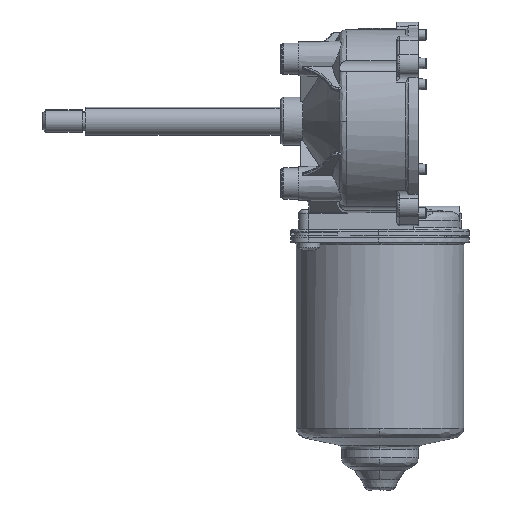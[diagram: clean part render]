
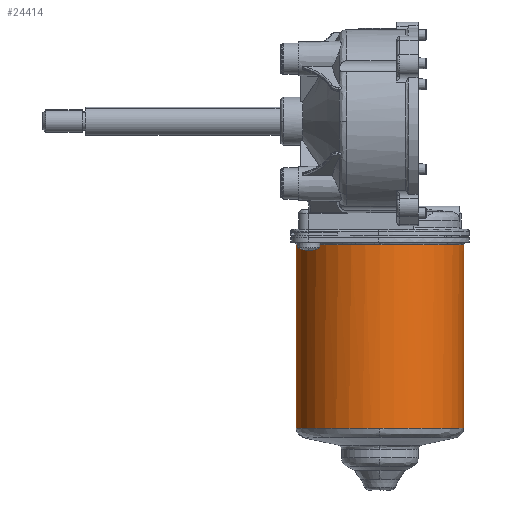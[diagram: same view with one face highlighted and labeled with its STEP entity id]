
A CAD part, front view. The second image highlights one B-rep face of the part: STEP entity #24414.
In plain terms, the highlighted cylindrical face has radius 29.599 mm (diameter 59.199 mm), a partial arc.
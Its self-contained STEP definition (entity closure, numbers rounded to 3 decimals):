
#2140 = VERTEX_POINT ( 'NONE', #4070 ) ;
#2142 = EDGE_CURVE ( 'NONE', #2140, #25295, #4072, .T. ) ;
#2144 = VERTEX_POINT ( 'NONE', #4065 ) ;
#2193 = EDGE_CURVE ( 'NONE', #25390, #2144, #4317, .T. ) ;
#4065 = CARTESIAN_POINT ( 'NONE',  ( 54.599, 31.001, -43.7 ) ) ;
#4066 = DIRECTION ( 'NONE',  ( 0., 0., 1. ) ) ;
#4067 = VECTOR ( 'NONE', #4066, 1000. ) ;
#4068 = CARTESIAN_POINT ( 'NONE',  ( -4.6, 31.001, -108.318 ) ) ;
#4070 = CARTESIAN_POINT ( 'NONE',  ( -4.6, 31.001, -108.318 ) ) ;
#4072 = LINE ( 'NONE', #4068, #4067 ) ;
#4314 = DIRECTION ( 'NONE',  ( 0., 0., 1. ) ) ;
#4315 = VECTOR ( 'NONE', #4314, 1000. ) ;
#4316 = CARTESIAN_POINT ( 'NONE',  ( 54.599, 31.001, -108.318 ) ) ;
#4317 = LINE ( 'NONE', #4316, #4315 ) ;
#8127 = B_SPLINE_CURVE_WITH_KNOTS ( 'NONE', 3,
 ( #8166, #8165, #8164, #8163, #8162, #8161, #8160, #8159, #8158, #8157, #8155, #8154, #8152, #8151, #8150, #8149, #8148, #8147 ),
 .UNSPECIFIED., .F., .F.,
 ( 4, 2, 2, 2, 2, 2, 2, 2, 4 ),
 ( 0.5, 0.563, 0.625, 0.688, 0.75, 0.813, 0.875, 0.938, 1. ),
 .UNSPECIFIED. ) ;
#8147 = CARTESIAN_POINT ( 'NONE',  ( 24.999, 1.401, -108.318 ) ) ;
#8148 = CARTESIAN_POINT ( 'NONE',  ( 23.062, 1.401, -108.318 ) ) ;
#8149 = CARTESIAN_POINT ( 'NONE',  ( 21.125, 1.592, -108.318 ) ) ;
#8150 = CARTESIAN_POINT ( 'NONE',  ( 17.325, 2.348, -108.318 ) ) ;
#8151 = CARTESIAN_POINT ( 'NONE',  ( 15.462, 2.913, -108.318 ) ) ;
#8152 = CARTESIAN_POINT ( 'NONE',  ( 11.882, 4.396, -108.318 ) ) ;
#8154 = CARTESIAN_POINT ( 'NONE',  ( 10.165, 5.313, -108.318 ) ) ;
#8155 = CARTESIAN_POINT ( 'NONE',  ( 6.944, 7.466, -108.318 ) ) ;
#8157 = CARTESIAN_POINT ( 'NONE',  ( 5.439, 8.701, -108.318 ) ) ;
#8158 = CARTESIAN_POINT ( 'NONE',  ( 2.699, 11.44, -108.318 ) ) ;
#8159 = CARTESIAN_POINT ( 'NONE',  ( 1.464, 12.945, -108.318 ) ) ;
#8160 = CARTESIAN_POINT ( 'NONE',  ( -0.688, 16.167, -108.318 ) ) ;
#8161 = CARTESIAN_POINT ( 'NONE',  ( -1.606, 17.884, -108.318 ) ) ;
#8162 = CARTESIAN_POINT ( 'NONE',  ( -3.089, 21.463, -108.318 ) ) ;
#8163 = CARTESIAN_POINT ( 'NONE',  ( -3.654, 23.326, -108.318 ) ) ;
#8164 = CARTESIAN_POINT ( 'NONE',  ( -4.41, 27.126, -108.318 ) ) ;
#8165 = CARTESIAN_POINT ( 'NONE',  ( -4.6, 29.063, -108.318 ) ) ;
#8166 = CARTESIAN_POINT ( 'NONE',  ( -4.6, 31.001, -108.318 ) ) ;
#8396 = DIRECTION ( 'NONE',  ( 0., -1., 0. ) ) ;
#8398 = DIRECTION ( 'NONE',  ( 0., 0., -1. ) ) ;
#8399 = CARTESIAN_POINT ( 'NONE',  ( 24.999, 31.001, -43.7 ) ) ;
#8669 = AXIS2_PLACEMENT_3D ( 'NONE', #8399, #8398, #8396 ) ;
#8670 = CIRCLE ( 'NONE', #8669, 29.599 ) ;
#8928 = DIRECTION ( 'NONE',  ( 1., 0., 0. ) ) ;
#8929 = DIRECTION ( 'NONE',  ( 0., 0., 1. ) ) ;
#8930 = AXIS2_PLACEMENT_3D ( 'NONE', #8931, #8929, #8928 ) ;
#8931 = CARTESIAN_POINT ( 'NONE',  ( 24.999, 31.001, -108.318 ) ) ;
#8932 = CYLINDRICAL_SURFACE ( 'NONE', #8930, 29.599 ) ;
#8933 = FACE_OUTER_BOUND ( 'NONE', #24415, .T. ) ;
#11589 = CARTESIAN_POINT ( 'NONE',  ( -4.6, 31.001, -43.7 ) ) ;
#11616 = DIRECTION ( 'NONE',  ( 0., -1., 0. ) ) ;
#11617 = DIRECTION ( 'NONE',  ( 0., 0., -1. ) ) ;
#11618 = CARTESIAN_POINT ( 'NONE',  ( 24.999, 31.001, -43.7 ) ) ;
#11619 = AXIS2_PLACEMENT_3D ( 'NONE', #11618, #11617, #11616 ) ;
#11620 = CIRCLE ( 'NONE', #11619, 29.599 ) ;
#11981 = CARTESIAN_POINT ( 'NONE',  ( 24.999, 1.401, -43.7 ) ) ;
#12040 = CARTESIAN_POINT ( 'NONE',  ( 54.599, 31.001, -108.318 ) ) ;
#12068 = CARTESIAN_POINT ( 'NONE',  ( 54.599, 31.001, -108.318 ) ) ;
#12069 = CARTESIAN_POINT ( 'NONE',  ( 54.599, 29.063, -108.318 ) ) ;
#12070 = CARTESIAN_POINT ( 'NONE',  ( 54.408, 27.126, -108.318 ) ) ;
#12071 = CARTESIAN_POINT ( 'NONE',  ( 53.652, 23.326, -108.318 ) ) ;
#12072 = CARTESIAN_POINT ( 'NONE',  ( 53.087, 21.463, -108.318 ) ) ;
#12073 = CARTESIAN_POINT ( 'NONE',  ( 51.604, 17.884, -108.318 ) ) ;
#12074 = CARTESIAN_POINT ( 'NONE',  ( 50.687, 16.167, -108.318 ) ) ;
#12075 = CARTESIAN_POINT ( 'NONE',  ( 48.534, 12.945, -108.318 ) ) ;
#12076 = CARTESIAN_POINT ( 'NONE',  ( 47.299, 11.44, -108.318 ) ) ;
#12077 = CARTESIAN_POINT ( 'NONE',  ( 44.559, 8.701, -108.318 ) ) ;
#12078 = CARTESIAN_POINT ( 'NONE',  ( 43.055, 7.466, -108.318 ) ) ;
#12079 = CARTESIAN_POINT ( 'NONE',  ( 39.833, 5.313, -108.318 ) ) ;
#12080 = CARTESIAN_POINT ( 'NONE',  ( 38.116, 4.396, -108.318 ) ) ;
#12081 = CARTESIAN_POINT ( 'NONE',  ( 34.537, 2.913, -108.318 ) ) ;
#12082 = CARTESIAN_POINT ( 'NONE',  ( 32.674, 2.348, -108.318 ) ) ;
#12083 = CARTESIAN_POINT ( 'NONE',  ( 28.874, 1.592, -108.318 ) ) ;
#12084 = CARTESIAN_POINT ( 'NONE',  ( 26.936, 1.401, -108.318 ) ) ;
#12088 = CARTESIAN_POINT ( 'NONE',  ( 24.999, 1.401, -108.318 ) ) ;
#12089 = CARTESIAN_POINT ( 'NONE',  ( 24.999, 1.401, -108.318 ) ) ;
#12090 = B_SPLINE_CURVE_WITH_KNOTS ( 'NONE', 3,
 ( #12088, #12084, #12083, #12082, #12081, #12080, #12079, #12078, #12077, #12076, #12075, #12074, #12073, #12072, #12071, #12070, #12069, #12068 ),
 .UNSPECIFIED., .F., .F.,
 ( 4, 2, 2, 2, 2, 2, 2, 2, 4 ),
 ( 0., 0.062, 0.125, 0.187, 0.25, 0.313, 0.375, 0.437, 0.5 ),
 .UNSPECIFIED. ) ;
#24201 = EDGE_CURVE ( 'NONE', #2140, #25393, #8127, .T. ) ;
#24386 = ORIENTED_EDGE ( 'NONE', *, *, #24201, .T. ) ;
#24387 = ORIENTED_EDGE ( 'NONE', *, *, #25392, .T. ) ;
#24395 = ORIENTED_EDGE ( 'NONE', *, *, #25301, .T. ) ;
#24409 = ORIENTED_EDGE ( 'NONE', *, *, #2193, .T. ) ;
#24410 = ORIENTED_EDGE ( 'NONE', *, *, #24411, .T. ) ;
#24411 = EDGE_CURVE ( 'NONE', #2144, #25369, #8670, .T. ) ;
#24414 = ADVANCED_FACE ( 'NONE', ( #8933 ), #8932, .T. ) ;
#24415 = EDGE_LOOP ( 'NONE', ( #24416, #24386, #24387, #24409, #24410, #24395 ) ) ;
#24416 = ORIENTED_EDGE ( 'NONE', *, *, #2142, .F. ) ;
#25295 = VERTEX_POINT ( 'NONE', #11589 ) ;
#25301 = EDGE_CURVE ( 'NONE', #25369, #25295, #11620, .T. ) ;
#25369 = VERTEX_POINT ( 'NONE', #11981 ) ;
#25390 = VERTEX_POINT ( 'NONE', #12040 ) ;
#25392 = EDGE_CURVE ( 'NONE', #25393, #25390, #12090, .T. ) ;
#25393 = VERTEX_POINT ( 'NONE', #12089 ) ;
